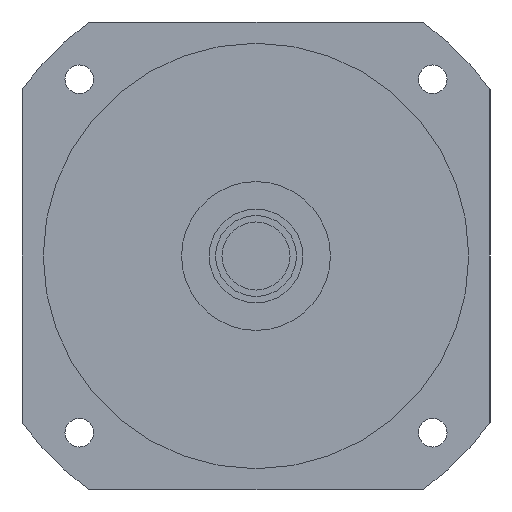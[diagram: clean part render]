
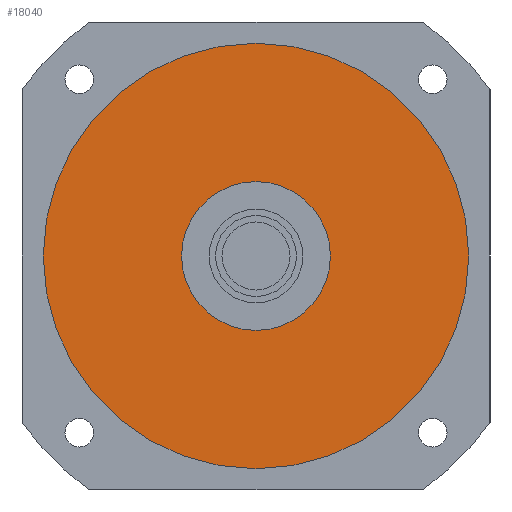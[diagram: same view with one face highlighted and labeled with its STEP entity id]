
A CAD part, left-side view. The second image highlights one B-rep face of the part: STEP entity #18040.
In plain terms, the highlighted planar face has unit normal (-1, 0, 0) as drawn and (0, 0, -1) by its records, which use the part's own axes.
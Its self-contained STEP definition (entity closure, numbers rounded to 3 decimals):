
#17460=CARTESIAN_POINT('',(100.,0.,-79.7));
#17470=VERTEX_POINT('',#17460);
#17560=CARTESIAN_POINT('',(-100.,0.,-79.7));
#17570=VERTEX_POINT('',#17560);
#17600=CARTESIAN_POINT('',(0.,0.,
-79.7));
#17610=DIRECTION('',(0.,0.,1.));
#17620=DIRECTION('',(0.,1.,0.));
#17630=AXIS2_PLACEMENT_3D('',#17600,#17610,#17620);
#17640=CIRCLE('',#17630,100.);
#17650=CARTESIAN_POINT('',(0.,100.,-79.7));
#17660=VERTEX_POINT('',#17650);
#17670=EDGE_CURVE('',#17660,#17570,#17640,.T.);
#17690=EDGE_CURVE('',#17470,#17660,#17640,.T.);
#17740=CARTESIAN_POINT('',(0.,0.,
-79.7));
#17750=DIRECTION('',(0.,0.,1.));
#17760=DIRECTION('',(-1.,0.,0.));
#17770=AXIS2_PLACEMENT_3D('',#17740,#17750,#17760);
#17780=PLANE('',#17770);
#17790=CARTESIAN_POINT('',(0.,0.,
-79.7));
#17800=DIRECTION('',(0.,0.,1.));
#17810=DIRECTION('',(0.,1.,0.));
#17820=AXIS2_PLACEMENT_3D('',#17790,#17800,#17810);
#17830=CIRCLE('',#17820,35.);
#17840=CARTESIAN_POINT('',(-35.,0.,-79.7));
#17850=VERTEX_POINT('',#17840);
#17860=CARTESIAN_POINT('',(35.,0.,-79.7));
#17870=VERTEX_POINT('',#17860);
#17880=EDGE_CURVE('',#17850,#17870,#17830,.T.);
#17890=ORIENTED_EDGE('',*,*,#17880,.T.);
#17900=CARTESIAN_POINT('',(0.,35.,-79.7));
#17910=VERTEX_POINT('',#17900);
#17920=EDGE_CURVE('',#17910,#17850,#17830,.T.);
#17930=ORIENTED_EDGE('',*,*,#17920,.T.);
#17940=EDGE_CURVE('',#17870,#17910,#17830,.T.);
#17950=ORIENTED_EDGE('',*,*,#17940,.T.);
#17960=EDGE_LOOP('',(#17950,#17930,#17890));
#17970=FACE_BOUND('',#17960,.T.);
#17980=ORIENTED_EDGE('',*,*,#17670,.F.);
#17990=EDGE_CURVE('',#17570,#17470,#17640,.T.);
#18000=ORIENTED_EDGE('',*,*,#17990,.F.);
#18010=ORIENTED_EDGE('',*,*,#17690,.F.);
#18020=EDGE_LOOP('',(#18010,#18000,#17980));
#18030=FACE_OUTER_BOUND('',#18020,.T.);
#18040=ADVANCED_FACE('',(#17970,#18030),#17780,.F.);
